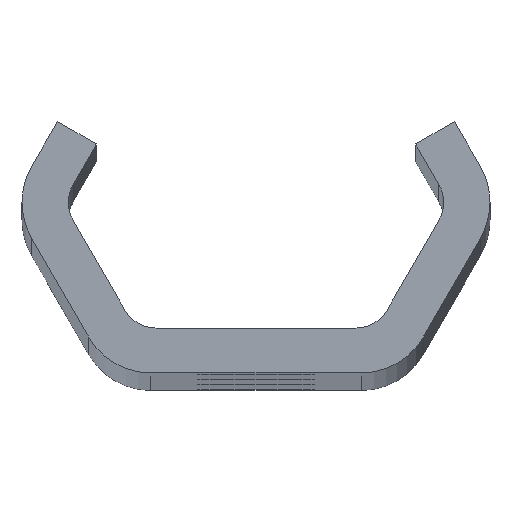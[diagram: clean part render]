
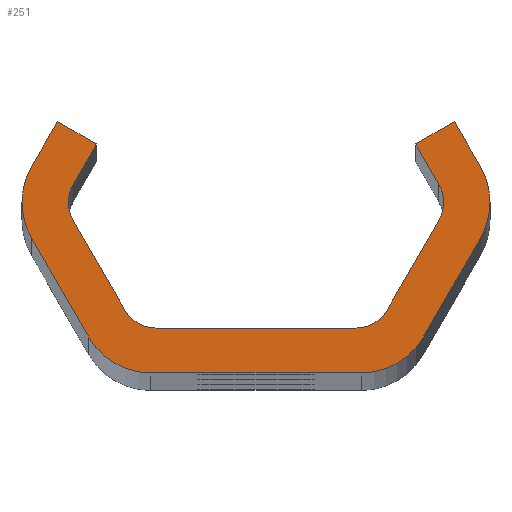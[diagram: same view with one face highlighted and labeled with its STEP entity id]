
A CAD part, top view. The second image highlights one B-rep face of the part: STEP entity #251.
In plain terms, the highlighted planar face has unit normal (0, 0, 1).
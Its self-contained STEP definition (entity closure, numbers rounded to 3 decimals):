
#251=ADVANCED_FACE('NONE',(#639),#640,.F.);
#639=FACE_OUTER_BOUND('',#1833,.T.);
#640=PLANE('',#1834);
#1833=EDGE_LOOP('',(#3651,#3652,#3653,#3654,#3655,#3656,#3657,#3658,#3659,#3660,#3661,#3662,#3663,#3664,#3665,#3666,#3667,#3668,#3669,#3670,#3671,#3672,#3673,#3674));
#1834=AXIS2_PLACEMENT_3D('',#3675,#3676,#3677);
#3651=ORIENTED_EDGE('',*,*,#4859,.T.);
#3652=ORIENTED_EDGE('',*,*,#4876,.T.);
#3653=ORIENTED_EDGE('',*,*,#4861,.T.);
#3654=ORIENTED_EDGE('',*,*,#4877,.T.);
#3655=ORIENTED_EDGE('',*,*,#4870,.F.);
#3656=ORIENTED_EDGE('',*,*,#4878,.T.);
#3657=ORIENTED_EDGE('',*,*,#4644,.T.);
#3658=ORIENTED_EDGE('',*,*,#4873,.F.);
#3659=ORIENTED_EDGE('',*,*,#4748,.F.);
#3660=ORIENTED_EDGE('',*,*,#4752,.F.);
#3661=ORIENTED_EDGE('',*,*,#4698,.T.);
#3662=ORIENTED_EDGE('',*,*,#4879,.T.);
#3663=ORIENTED_EDGE('',*,*,#4756,.F.);
#3664=ORIENTED_EDGE('',*,*,#4880,.T.);
#3665=ORIENTED_EDGE('',*,*,#4761,.F.);
#3666=ORIENTED_EDGE('',*,*,#4881,.T.);
#3667=ORIENTED_EDGE('',*,*,#4842,.T.);
#3668=ORIENTED_EDGE('',*,*,#4882,.T.);
#3669=ORIENTED_EDGE('',*,*,#4639,.T.);
#3670=ORIENTED_EDGE('',*,*,#4845,.T.);
#3671=ORIENTED_EDGE('',*,*,#4851,.T.);
#3672=ORIENTED_EDGE('',*,*,#4855,.T.);
#3673=ORIENTED_EDGE('',*,*,#4883,.T.);
#3674=ORIENTED_EDGE('',*,*,#4701,.T.);
#3675=CARTESIAN_POINT('',(0.0,0.0,560.0));
#3676=DIRECTION('',(0.0,0.0,-1.0));
#3677=DIRECTION('',(0.0,-1.0,0.0));
#4639=EDGE_CURVE('NONE',#5194,#5198,#5200,.T.);
#4644=EDGE_CURVE('NONE',#5203,#5207,#5209,.T.);
#4698=EDGE_CURVE('NONE',#5306,#5304,#5307,.T.);
#4701=EDGE_CURVE('NONE',#5310,#5311,#5312,.T.);
#4748=EDGE_CURVE('NONE',#5382,#5384,#5385,.T.);
#4752=EDGE_CURVE('NONE',#5306,#5382,#5389,.T.);
#4756=EDGE_CURVE('NONE',#5394,#5396,#5397,.T.);
#4761=EDGE_CURVE('NONE',#5403,#5405,#5406,.T.);
#4842=EDGE_CURVE('NONE',#5560,#5558,#5561,.T.);
#4845=EDGE_CURVE('NONE',#5198,#5564,#5565,.T.);
#4851=EDGE_CURVE('NONE',#5564,#5572,#5574,.T.);
#4855=EDGE_CURVE('NONE',#5572,#5578,#5580,.T.);
#4859=EDGE_CURVE('NONE',#5311,#5584,#5586,.T.);
#4861=EDGE_CURVE('NONE',#5588,#5589,#5590,.T.);
#4870=EDGE_CURVE('NONE',#5602,#5604,#5605,.T.);
#4873=EDGE_CURVE('NONE',#5384,#5207,#5608,.T.);
#4876=EDGE_CURVE('NONE',#5584,#5588,#5611,.T.);
#4877=EDGE_CURVE('NONE',#5589,#5604,#5612,.T.);
#4878=EDGE_CURVE('NONE',#5602,#5203,#5613,.T.);
#4879=EDGE_CURVE('NONE',#5304,#5396,#5614,.T.);
#4880=EDGE_CURVE('NONE',#5394,#5405,#5615,.T.);
#4881=EDGE_CURVE('NONE',#5403,#5560,#5616,.T.);
#4882=EDGE_CURVE('NONE',#5558,#5194,#5617,.T.);
#4883=EDGE_CURVE('NONE',#5578,#5310,#5618,.T.);
#5194=VERTEX_POINT('',#6019);
#5198=VERTEX_POINT('NONE',#6024);
#5200=CIRCLE('',#6027,2.0);
#5203=VERTEX_POINT('',#6030);
#5207=VERTEX_POINT('NONE',#6035);
#5209=CIRCLE('',#6038,4.0);
#5304=VERTEX_POINT('NONE',#6837);
#5306=VERTEX_POINT('NONE',#6840);
#5307=CIRCLE('',#6841,2.0);
#5310=VERTEX_POINT('NONE',#6845);
#5311=VERTEX_POINT('NONE',#6846);
#5312=CIRCLE('',#6847,4.0);
#5382=VERTEX_POINT('NONE',#6930);
#5384=VERTEX_POINT('NONE',#6933);
#5385=LINE('',#6934,#6935);
#5389=LINE('',#6941,#6942);
#5394=VERTEX_POINT('NONE',#6948);
#5396=VERTEX_POINT('NONE',#6951);
#5397=LINE('',#6952,#6953);
#5403=VERTEX_POINT('NONE',#6961);
#5405=VERTEX_POINT('NONE',#6964);
#5406=LINE('',#6965,#6966);
#5558=VERTEX_POINT('NONE',#7520);
#5560=VERTEX_POINT('NONE',#7523);
#5561=LINE('',#7524,#7525);
#5564=VERTEX_POINT('NONE',#7529);
#5565=LINE('',#7530,#7531);
#5572=VERTEX_POINT('NONE',#7541);
#5574=LINE('',#7544,#7545);
#5578=VERTEX_POINT('NONE',#7550);
#5580=LINE('',#7553,#7554);
#5584=VERTEX_POINT('NONE',#7559);
#5586=LINE('',#7562,#7563);
#5588=VERTEX_POINT('NONE',#7565);
#5589=VERTEX_POINT('NONE',#7566);
#5590=LINE('',#7567,#7568);
#5602=VERTEX_POINT('NONE',#7584);
#5604=VERTEX_POINT('NONE',#7587);
#5605=LINE('',#7588,#7589);
#5608=LINE('',#7593,#7594);
#5611=CIRCLE('',#7598,4.0);
#5612=CIRCLE('',#7599,4.0);
#5613=CIRCLE('',#7600,4.0);
#5614=CIRCLE('',#7601,2.0);
#5615=CIRCLE('',#7602,2.0);
#5616=CIRCLE('',#7603,2.0);
#5617=CIRCLE('',#7604,2.0);
#5618=CIRCLE('',#7605,4.0);
#6019=CARTESIAN_POINT('',(-10.455,0.,560.0));
#6024=CARTESIAN_POINT('',(-10.187,1.,560.0));
#6027=AXIS2_PLACEMENT_3D('',#8909,#8910,#8911);
#6030=CARTESIAN_POINT('',(13.032,0.,560.0));
#6035=CARTESIAN_POINT('',(12.496,2.,560.0));
#6038=AXIS2_PLACEMENT_3D('',#8917,#8918,#8919);
#6837=CARTESIAN_POINT('',(10.455,0.,560.0));
#6840=CARTESIAN_POINT('',(10.187,1.,560.0));
#6841=AXIS2_PLACEMENT_3D('',#8956,#8957,#8958);
#6845=CARTESIAN_POINT('',(-13.032,0.,560.0));
#6846=CARTESIAN_POINT('',(-12.496,-2.,560.0));
#6847=AXIS2_PLACEMENT_3D('',#8960,#8961,#8962);
#6930=CARTESIAN_POINT('',(8.888,3.25,560.0));
#6933=CARTESIAN_POINT('',(11.053,4.5,560.0));
#6934=CARTESIAN_POINT('',(8.888,3.25,560.0));
#6935=VECTOR('',#9040,1000.0);
#6941=CARTESIAN_POINT('',(10.764,0.,560.0));
#6942=VECTOR('',#9043,1000.0);
#6948=CARTESIAN_POINT('',(7.3,-6.,560.0));
#6951=CARTESIAN_POINT('',(10.187,-1.,560.0));
#6952=CARTESIAN_POINT('',(6.723,-7.0,560.0));
#6953=VECTOR('',#9046,1000.0);
#6961=CARTESIAN_POINT('',(-5.568,-7.0,560.0));
#6964=CARTESIAN_POINT('',(5.568,-7.0,560.0));
#6965=CARTESIAN_POINT('',(-6.723,-7.0,560.0));
#6966=VECTOR('',#9050,1000.0);
#7520=CARTESIAN_POINT('',(-10.187,-1.,560.0));
#7523=CARTESIAN_POINT('',(-7.3,-6.,560.0));
#7524=CARTESIAN_POINT('',(-6.723,-7.0,560.0));
#7525=VECTOR('',#9126,1000.0);
#7529=CARTESIAN_POINT('',(-8.888,3.25,560.0));
#7530=CARTESIAN_POINT('',(-10.764,0.0,560.0));
#7531=VECTOR('',#9128,1000.0);
#7541=CARTESIAN_POINT('',(-11.053,4.5,560.0));
#7544=CARTESIAN_POINT('',(-8.888,3.25,560.0));
#7545=VECTOR('',#9133,1000.0);
#7550=CARTESIAN_POINT('',(-12.496,2.0,560.0));
#7553=CARTESIAN_POINT('',(-11.053,4.5,560.0));
#7554=VECTOR('',#9136,1000.0);
#7559=CARTESIAN_POINT('',(-9.321,-7.5,560.0));
#7562=CARTESIAN_POINT('',(-13.651,0.0,560.0));
#7563=VECTOR('',#9139,1000.0);
#7565=CARTESIAN_POINT('',(-5.857,-9.5,560.0));
#7566=CARTESIAN_POINT('',(5.857,-9.5,560.0));
#7567=CARTESIAN_POINT('',(-8.166,-9.5,560.0));
#7568=VECTOR('',#9140,1000.0);
#7584=CARTESIAN_POINT('',(12.496,-2.,560.0));
#7587=CARTESIAN_POINT('',(9.321,-7.5,560.0));
#7588=CARTESIAN_POINT('',(13.651,0.,560.0));
#7589=VECTOR('',#9152,1000.0);
#7593=CARTESIAN_POINT('',(11.053,4.5,560.0));
#7594=VECTOR('',#9154,1000.0);
#7598=AXIS2_PLACEMENT_3D('',#9156,#9157,#9158);
#7599=AXIS2_PLACEMENT_3D('',#9159,#9160,#9161);
#7600=AXIS2_PLACEMENT_3D('',#9162,#9163,#9164);
#7601=AXIS2_PLACEMENT_3D('',#9165,#9166,#9167);
#7602=AXIS2_PLACEMENT_3D('',#9168,#9169,#9170);
#7603=AXIS2_PLACEMENT_3D('',#9171,#9172,#9173);
#7604=AXIS2_PLACEMENT_3D('',#9174,#9175,#9176);
#7605=AXIS2_PLACEMENT_3D('',#9177,#9178,#9179);
#8909=CARTESIAN_POINT('',(-8.455,0.,560.0));
#8910=DIRECTION('',(0.0,0.0,-1.0));
#8911=DIRECTION('',(-1.0,0.0,0.0));
#8917=CARTESIAN_POINT('',(9.032,0.,560.0));
#8918=DIRECTION('',(0.0,0.0,1.0));
#8919=DIRECTION('',(-1.0,0.0,0.0));
#8956=CARTESIAN_POINT('',(8.455,0.,560.0));
#8957=DIRECTION('',(0.0,0.0,-1.0));
#8958=DIRECTION('',(-1.0,0.0,0.0));
#8960=CARTESIAN_POINT('',(-9.032,0.,560.0));
#8961=DIRECTION('',(0.0,0.0,1.0));
#8962=DIRECTION('',(-1.0,0.0,0.0));
#9040=DIRECTION('',(0.866,0.5,0.0));
#9043=DIRECTION('',(-0.5,0.866,0.0));
#9046=DIRECTION('',(0.5,0.866,0.0));
#9050=DIRECTION('',(1.0,0.,0.0));
#9126=DIRECTION('',(-0.5,0.866,0.0));
#9128=DIRECTION('',(0.5,0.866,0.0));
#9133=DIRECTION('',(-0.866,0.5,0.0));
#9136=DIRECTION('',(-0.5,-0.866,0.0));
#9139=DIRECTION('',(0.5,-0.866,0.0));
#9140=DIRECTION('',(1.0,0.,0.0));
#9152=DIRECTION('',(-0.5,-0.866,0.0));
#9154=DIRECTION('',(0.5,-0.866,0.0));
#9156=CARTESIAN_POINT('',(-5.857,-5.5,560.0));
#9157=DIRECTION('',(0.0,0.0,1.0));
#9158=DIRECTION('',(-1.0,0.0,0.0));
#9159=CARTESIAN_POINT('',(5.857,-5.5,560.0));
#9160=DIRECTION('',(0.0,0.0,1.0));
#9161=DIRECTION('',(-1.0,0.0,0.0));
#9162=CARTESIAN_POINT('',(9.032,0.,560.0));
#9163=DIRECTION('',(0.0,0.0,1.0));
#9164=DIRECTION('',(-1.0,0.0,0.0));
#9165=CARTESIAN_POINT('',(8.455,0.,560.0));
#9166=DIRECTION('',(0.0,0.0,-1.0));
#9167=DIRECTION('',(-1.0,0.0,0.0));
#9168=CARTESIAN_POINT('',(5.568,-5.0,560.0));
#9169=DIRECTION('',(0.0,0.0,-1.0));
#9170=DIRECTION('',(-1.0,0.0,0.0));
#9171=CARTESIAN_POINT('',(-5.568,-5.0,560.0));
#9172=DIRECTION('',(0.0,0.0,-1.0));
#9173=DIRECTION('',(-1.0,0.0,0.0));
#9174=CARTESIAN_POINT('',(-8.455,0.,560.0));
#9175=DIRECTION('',(0.0,0.0,-1.0));
#9176=DIRECTION('',(-1.0,0.0,0.0));
#9177=CARTESIAN_POINT('',(-9.032,0.,560.0));
#9178=DIRECTION('',(0.0,0.0,1.0));
#9179=DIRECTION('',(-1.0,0.,0.0));
